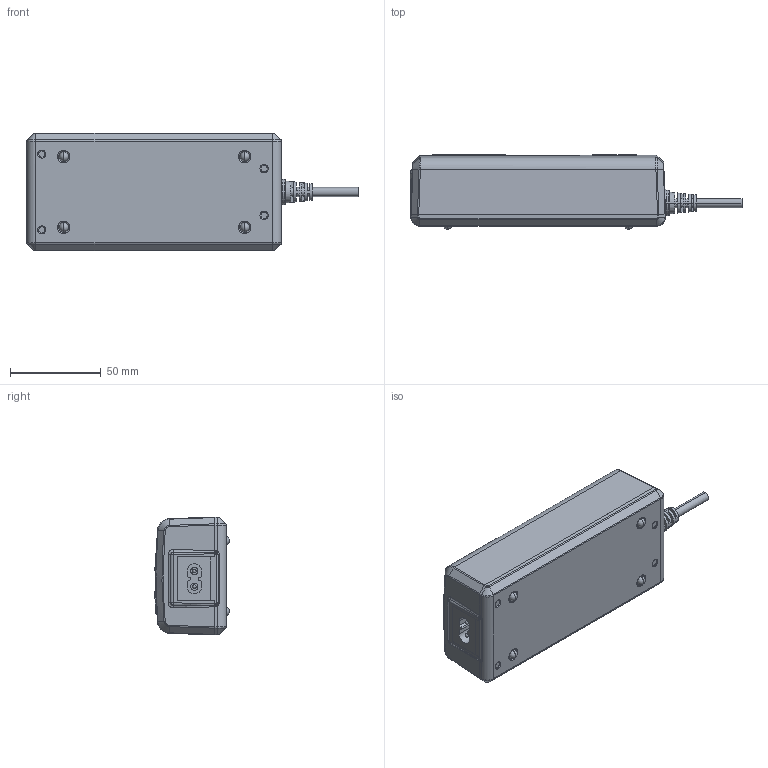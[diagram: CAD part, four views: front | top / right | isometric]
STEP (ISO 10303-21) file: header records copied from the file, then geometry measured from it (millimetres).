
FILE_DESCRIPTION (( 'STEP AP203' ), '1' );
FILE_NAME ('3D_TP2S.STEP', '2021-11-03T08:06:59', ( '' ), ( '' ), 'SwSTEP 2.0', 'SolidWorks 2015', '' );
FILE_SCHEMA (( 'CONFIG_CONTROL_DESIGN' ));
Length unit declared in the file: millimetre
Products named in the file (1): 3D_TP2S
Bounding box: 183 x 41.2 x 64.98 mm (x, y, z)
Volume: 336941.7 mm3; surface area: 55527 mm2
Topology: 5 solids, 5 shells, 559 faces, 1424 edges, 904 vertices
Faces by surface type: plane 228, bspline 171, cylinder 113, cone 25, torus 12, sphere 10
Entity records: 24856 total; most frequent: CARTESIAN_POINT 12668, ORIENTED_EDGE 2804, DIRECTION 2015, EDGE_CURVE 1402, VERTEX_POINT 896, LINE 675, VECTOR 675, AXIS2_PLACEMENT_3D 670
